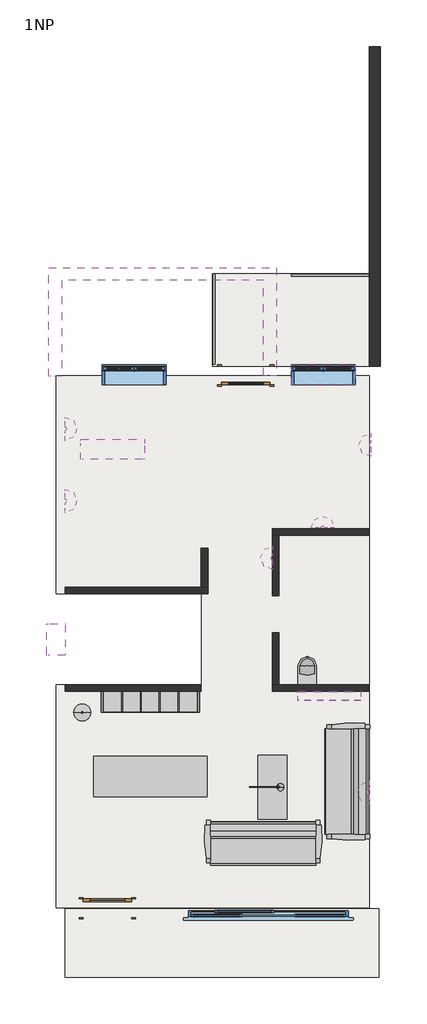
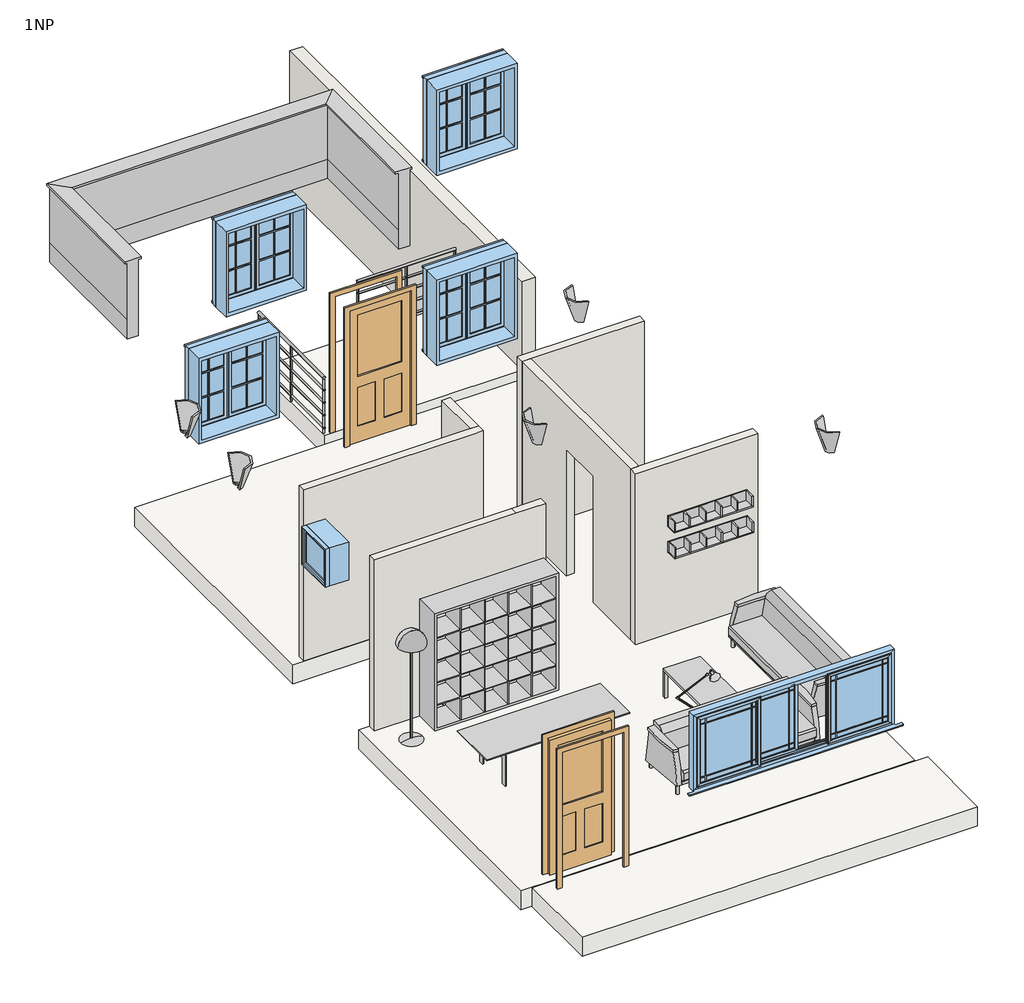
# One storey, incomplete: 8 light fixtures, 7 furniture elements, 7 walls, 6 windows, 3 slabs, 2 doors, 2 railings, 1 flow terminal, 1 proxy.
"""IFC4 building model written with IfcOpenShell, lengths in millimetres."""

from ifc_helpers import new_model, si_unit, frame, origin, origin_with_axes, place, context, project, spatial, polyline, outline, extrude, faceted_brep, transform, mapped, element, save
from components import m_single_decorative_1_0914_x_2134mm_a31491ec, flow_terminal_530_x_350mm_1a9316c8, furniture_920b33d8, furniture_7eedec44, furniture_45a1625c, furniture_0762_x_2134mm_3327233b, furniture_2134mm_67ee6dc0, furniture_2134mm_7fff81ef, lack_120x55cm_a48caeea, light_fixture_bd9db648, light_fixture_16639799, light_fixture_4844b612, light_fixture_da5f3668, light_fixture_c75c11d5, light_fixture_c6ae0c23, railing_900mm_pipe_2_fe6058d7, railing_900mm_pipe_2_0036318b, window_61b1430e, window_8f0d36a4, m_case_doubleall_bar_1200_x_1350mm_d246b42b, m_fixed1_600_x_600mm_7c1dbeb3

model = new_model("IFC4")

# Units and contexts
model_context = context("Model", 3, world=origin())
ifc_project = project(units=[si_unit("LENGTHUNIT", "METRE", prefix="MILLI")], contexts=[model_context])

# Site, building, storey
site = spatial("IfcSite", under=ifc_project)
building = spatial("IfcBuilding", under=site)
storey = spatial("IfcBuildingStorey", under=building, Name="1NP", Elevation=0.0)

# Proxy
placement = place(None, origin())
element("IfcBuildingElementProxy", 1, Name="Parapetto", ObjectType="Parapetto", at=placement, inside=storey, context=model_context, shape_type="Brep", body=[
    faceted_brep([(-4001.8266822, 4391.7328473, 2700.0), (-3841.8266822, 4391.7328473, 2700.0), (-3841.8266822, 4391.7328473, 3000.0), (-3841.8266822, 4391.7328473, 3900.0), (-3811.8266822, 4391.7328473, 3900.0), (-3811.8266822, 4391.7328473, 3930.0), (-4051.8266822, 4391.7328473, 3930.0), (-4051.8266822, 4391.7328473, 3900.0), (-4001.8266822, 4391.7328473, 3900.0), (-4001.8266822, 4391.7328473, 3000.0), (-4001.8266822, 6234.7328473, 2700.0), (-3841.8266822, 6394.7328473, 2700.0), (-3841.8266822, 4573.2328473, 2700.0), (-3841.8266822, 6394.7328473, 3000.0), (-3841.8266822, 6394.7328473, 3900.0), (-3811.8266822, 6424.7328473, 3900.0), (-3811.8266822, 6424.7328473, 3930.0), (-4051.8266822, 6184.7328473, 3930.0), (-4051.8266822, 6184.7328473, 3900.0), (-4001.8266822, 6234.7328473, 3900.0), (-4001.8266822, 6234.7328473, 3000.0), (-7898.3266822, 6234.7328473, 2700.0), (-8058.3266822, 6394.7328473, 2700.0), (-8058.3266822, 6394.7328473, 3000.0), (-8058.3266822, 6394.7328473, 3900.0), (-8088.3266822, 6424.7328473, 3900.0), (-8088.3266822, 6424.7328473, 3930.0), (-7848.3266822, 6184.7328473, 3930.0), (-7848.3266822, 6184.7328473, 3900.0), (-7898.3266822, 6234.7328473, 3900.0), (-7898.3266822, 6234.7328473, 3000.0), (-7898.3266822, 4384.7328473, 2700.0), (-7898.3266822, 4384.7328473, 3000.0), (-7898.3266822, 4384.7328473, 3900.0), (-7848.3266822, 4384.7328473, 3900.0), (-7848.3266822, 4384.7328473, 3930.0), (-8088.3266822, 4384.7328473, 3930.0), (-8088.3266822, 4384.7328473, 3900.0), (-8058.3266822, 4384.7328473, 3900.0), (-8058.3266822, 4384.7328473, 3000.0), (-8058.3266822, 4384.7328473, 2700.0)], [[[0, 1, 2, 3, 4, 5, 6, 7, 8, 9]], [[1, 0, 10, 11, 12]], [[2, 1, 12, 11, 13]], [[3, 2, 13, 14]], [[4, 3, 14, 15]], [[5, 4, 15, 16]], [[6, 5, 16, 17]], [[7, 6, 17, 18]], [[8, 7, 18, 19]], [[9, 8, 19, 20]], [[0, 9, 20, 10]], [[11, 10, 21, 22]], [[13, 11, 22, 23]], [[14, 13, 23, 24]], [[15, 14, 24, 25]], [[16, 15, 25, 26]], [[17, 16, 26, 27]], [[18, 17, 27, 28]], [[19, 18, 28, 29]], [[20, 19, 29, 30]], [[10, 20, 30, 21]], [[31, 32, 33, 34, 35, 36, 37, 38, 39, 40]], [[22, 21, 31, 40]], [[23, 22, 40, 39]], [[24, 23, 39, 38]], [[25, 24, 38, 37]], [[26, 25, 37, 36]], [[27, 26, 36, 35]], [[28, 27, 35, 34]], [[29, 28, 34, 33]], [[30, 29, 33, 32]], [[21, 30, 32, 31]]]),
])

# Doors
m_single_decorative_1_0914_x_2134mm_shape = m_single_decorative_1_0914_x_2134mm_a31491ec(model_context)
element("IfcDoor", 2, ObjectType="M_Single-Decorative 1 : 0914 x 2134mm", at=placement, inside=storey, context=model_context, shape_type="MappedRepresentation", body=[
    mapped(m_single_decorative_1_0914_x_2134mm_shape, transform((-6986.8266822, -5601.7671527, 0.0), x_axis=(-1.0, 0.0, 0.0), y_axis=(0.0, -1.0, 0.0), z_axis=(0.0, 0.0, 1.0))),
])
element("IfcDoor", 3, ObjectType="M_Single-Decorative 1 : 0914 x 2134mm", at=placement, inside=storey, context=model_context, shape_type="MappedRepresentation", body=[
    mapped(m_single_decorative_1_0914_x_2134mm_shape, transform((-4386.8266822, 4398.2328473, 0.0), x_axis=(1.0, 0.0, 0.0), y_axis=(0.0, 1.0, 0.0), z_axis=(0.0, 0.0, 1.0))),
])

# Flow terminal
flow_terminal_530_x_350mm_shape = flow_terminal_530_x_350mm_1a9316c8(model_context)
element("IfcFlowTerminal", 4, ObjectType="WC závěsné : 530 x 350mm", at=placement, inside=storey, context=model_context, shape_type="MappedRepresentation", body=[
    mapped(flow_terminal_530_x_350mm_shape, transform((-3231.7769186, -1401.8406402, 0.0), x_axis=(-1.0, 0.0, 0.0), y_axis=(0.0, -1.0, 0.0), z_axis=(0.0, 0.0, 1.0))),
])

# Furniture
furniture_shape = furniture_920b33d8(model_context)
element("IfcFurniture", 5, ObjectType="Police nástěnná : Benno Mensola", at=placement, inside=storey, context=model_context, shape_type="MappedRepresentation", body=[
    mapped(furniture_shape, transform((-2836.6069087, -1464.3406402, -400.0), x_axis=(-1.0, 0.0, 0.0), y_axis=(0.0, -1.0, 0.0), z_axis=(0.0, 0.0, 1.0))),
])
furniture_2_shape = furniture_7eedec44(model_context)
element("IfcFurniture", 6, ObjectType="Police nástěnná : Benno Mensola", at=placement, inside=storey, context=model_context, shape_type="MappedRepresentation", body=[
    mapped(furniture_2_shape, transform((-2836.6069087, -1464.3406402, 0.0), x_axis=(-1.0, 0.0, 0.0), y_axis=(0.0, -1.0, 0.0), z_axis=(0.0, 0.0, 1.0))),
])
furniture_3_shape = furniture_45a1625c(model_context)
element("IfcFurniture", 7, ObjectType="Knihovna IKEA : Expedit Libreria 185x185x39", at=placement, inside=storey, context=model_context, shape_type="MappedRepresentation", body=[
    mapped(furniture_3_shape, transform((-5936.2729468, -1653.1589206, 0.0), x_axis=(-1.0000000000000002, 0.0, 0.0), y_axis=(0.0, -1.0000000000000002, 0.0), z_axis=(0.0, 0.0, 1.0))),
])
furniture_0762_x_2134mm_shape = furniture_0762_x_2134mm_3327233b(model_context)
element("IfcFurniture", 8, ObjectType="Pohovka_Tavolo-Pranzo : 0762 x 2134mm", at=placement, inside=storey, context=model_context, shape_type="MappedRepresentation", body=[
    mapped(furniture_0762_x_2134mm_shape, transform((-6201.5924488, -3222.051718, 0.0), x_axis=(1.0, 0.0, 0.0), y_axis=(0.0, 1.0, 0.0), z_axis=(0.0, 0.0, 1.0))),
])
furniture_2134mm_shape = furniture_2134mm_67ee6dc0(model_context)
element("IfcFurniture", 9, ObjectType="Pohovka_Poltrona-Pensi : 2134mm", at=placement, inside=storey, context=model_context, shape_type="MappedRepresentation", body=[
    mapped(furniture_2134mm_shape, transform((-4340.4329322, -4649.7308041, 0.0), x_axis=(1.0, 0.0, 0.0), y_axis=(0.0, 1.0, 0.0), z_axis=(0.0, 0.0, 1.0))),
])
furniture_2134mm_2_shape = furniture_2134mm_7fff81ef(model_context)
element("IfcFurniture", 10, ObjectType="Pohovka_Poltrona-Pensi : 2134mm", at=placement, inside=storey, context=model_context, shape_type="MappedRepresentation", body=[
    mapped(furniture_2134mm_2_shape, transform((-2760.4365182, -3505.4468902, 0.0), x_axis=(0.0, 1.0, 0.0), y_axis=(-1.0, 0.0, 0.0), z_axis=(0.0, 0.0, 1.0))),
])
lack_120x55cm_shape = lack_120x55cm_a48caeea(model_context)
element("IfcFurniture", 11, ObjectType="KonferencniStolek : Lack 120x55cm", at=placement, inside=storey, context=model_context, shape_type="MappedRepresentation", body=[
    mapped(lack_120x55cm_shape, transform((-3537.7285634, -2966.216477, 0.0), x_axis=(1.0, 0.0, 0.0), y_axis=(0.0, 1.0, 0.0), z_axis=(0.0, 0.0, 1.0))),
])

# Light fixtures
light_fixture_shape = light_fixture_bd9db648(model_context)
element("IfcLightFixture", 12, ObjectType="M_Lamapada da pavimento - Semisferica : 100 watt Incandescente", at=placement, inside=storey, context=model_context, shape_type="MappedRepresentation", body=[
    mapped(light_fixture_shape, transform((-7461.8266822, -1926.8406402, 0.0), x_axis=(1.0, 0.0, 0.0), y_axis=(0.0, 1.0, 0.0), z_axis=(0.0, 0.0, 1.0))),
])
light_fixture_2_shape = light_fixture_16639799(model_context)
element("IfcLightFixture", 13, ObjectType="M_Applique : 100 watt Incandescente", at=placement, inside=storey, context=model_context, shape_type="MappedRepresentation", body=[
    mapped(light_fixture_2_shape, transform((-2940.6210153, 1460.6593598, 0.0), x_axis=(1.0, 0.0, 0.0), y_axis=(0.0, 1.0, 0.0), z_axis=(0.0, 0.0, 1.0))),
])
element("IfcLightFixture", 14, ObjectType="M_Applique : 100 watt Incandescente", at=placement, inside=storey, context=model_context, shape_type="MappedRepresentation", body=[
    mapped(light_fixture_2_shape, transform((-1961.8266822, 3098.5271804, 0.0), x_axis=(0.0, 1.0, 0.0), y_axis=(-1.0, 0.0, 0.0), z_axis=(0.0, 0.0, 1.0))),
])
light_fixture_3_shape = light_fixture_4844b612(model_context)
element("IfcLightFixture", 15, ObjectType="M_Lampada da tavolo Luxo : 100 watt Incandescente", at=placement, inside=storey, context=model_context, shape_type="MappedRepresentation", body=[
    mapped(light_fixture_3_shape, transform((-3990.4266822, -3326.8406402, 0.0), x_axis=(1.0, 0.0, 0.0), y_axis=(0.0, 1.0, 0.0), z_axis=(0.0, 0.0, 1.0))),
])
light_fixture_4_shape = light_fixture_da5f3668(model_context)
element("IfcLightFixture", 16, ObjectType="M_Applique : 100 watt Incandescente", at=placement, inside=storey, context=model_context, shape_type="MappedRepresentation", body=[
    mapped(light_fixture_4_shape, transform((-1961.8266822, -3426.8406402, 1900.0), x_axis=(0.0, 1.0, 0.0), y_axis=(-1.0, 0.0, 0.0), z_axis=(0.0, 0.0, 1.0))),
])
light_fixture_5_shape = light_fixture_c75c11d5(model_context)
element("IfcLightFixture", 17, ObjectType="M_Applique : 100 watt Incandescente", at=placement, inside=storey, context=model_context, shape_type="MappedRepresentation", body=[
    mapped(light_fixture_5_shape, transform((-3824.3266822, 976.9536929, 0.0), x_axis=(0.0, 1.0, 0.0), y_axis=(-1.0, 0.0, 0.0), z_axis=(0.0, 0.0, 1.0))),
])
light_fixture_6_shape = light_fixture_c6ae0c23(model_context)
element("IfcLightFixture", 18, ObjectType="M_Applique : 100 watt Incandescente", at=placement, inside=storey, context=model_context, shape_type="MappedRepresentation", body=[
    mapped(light_fixture_6_shape, transform((-7958.3266822, 2044.3650267, 0.0), x_axis=(0.0, -1.0, 0.0), y_axis=(1.0, 0.0, 0.0), z_axis=(0.0, 0.0, 1.0))),
])
element("IfcLightFixture", 19, ObjectType="M_Applique : 100 watt Incandescente", at=placement, inside=storey, context=model_context, shape_type="MappedRepresentation", body=[
    mapped(light_fixture_6_shape, transform((-7958.3266822, 3398.5271804, 0.0), x_axis=(0.0, -1.0, 0.0), y_axis=(1.0, 0.0, 0.0), z_axis=(0.0, 0.0, 1.0))),
])

# Railings
railing_900mm_pipe_2_shape = railing_900mm_pipe_2_fe6058d7(model_context)
element("IfcRailing", 20, ObjectType="900mm Pipe 2", at=placement, inside=storey, context=model_context, shape_type="MappedRepresentation", body=[
    mapped(railing_900mm_pipe_2_shape, transform((0.0, 0.0, 0.0), x_axis=(1.0, 0.0, 0.0), y_axis=(0.0, 1.0, 0.0), z_axis=(0.0, 0.0, 1.0))),
])
railing_900mm_pipe_2_2_shape = railing_900mm_pipe_2_0036318b(model_context)
element("IfcRailing", 21, ObjectType="900mm Pipe 2", at=placement, inside=storey, context=model_context, shape_type="MappedRepresentation", body=[
    mapped(railing_900mm_pipe_2_2_shape, transform((0.0, 0.0, 0.0), x_axis=(1.0, 0.0, 0.0), y_axis=(0.0, 1.0, 0.0), z_axis=(0.0, 0.0, 1.0))),
])

# Slabs
element("IfcSlab", 22, ObjectType="Domestic Slab", at=placement, inside=storey, context=model_context, shape_type="Brep", body=[
    faceted_brep([(-7948.3266822, 298.1593598, -300.0), (-7948.3266822, 4391.7328473, -300.0), (-2061.8266822, 4391.7328473, -300.0), (-2061.8266822, 4223.2328473, -300.0), (-2061.8266822, -5426.7671527, -300.0), (-2061.8266822, -5595.2671527, -300.0), (-7948.3266822, -5595.2671527, -300.0), (-7948.3266822, -1401.8406402, -300.0), (-5223.3266822, -1401.8406402, -300.0), (-5223.3266822, 298.1593598, -300.0), (-7948.3266822, 298.1593598, 0.0), (-5223.3266822, 298.1593598, 0.0), (-5223.3266822, -1401.8406402, 0.0), (-7948.3266822, -1401.8406402, 0.0), (-7948.3266822, -5595.2671527, 0.0), (-7443.8266822, -5595.2671527, 0.0), (-6529.8266822, -5595.2671527, 0.0), (-2061.8266822, -5595.2671527, 0.0), (-2061.8266822, -5426.7671527, 0.0), (-2061.8266822, 4223.2328473, 0.0), (-2061.8266822, 4391.7328473, 0.0), (-3929.8266822, 4391.7328473, 0.0), (-4843.8266822, 4391.7328473, 0.0), (-7948.3266822, 4391.7328473, 0.0)], [[[0, 1, 2, 3, 4, 5, 6, 7, 8, 9]], [[10, 11, 12, 13, 14, 15, 16, 17, 18, 19, 20, 21, 22, 23]], [[1, 0, 10, 23]], [[2, 1, 23, 22, 21, 20]], [[5, 4, 3, 2, 20, 19, 18, 17]], [[6, 5, 17, 16, 15, 14]], [[7, 6, 14, 13]], [[8, 7, 13, 12]], [[9, 8, 12, 11]], [[0, 9, 11, 10]]]),
])
element("IfcSlab", 23, ObjectType="Domestic Slab", at=placement, inside=storey, context=model_context, shape_type="Brep", body=[
    faceted_brep([(-1881.8266822, -6901.7671527, -300.0), (-2061.8266822, -6901.7671527, -300.0), (-7783.3266822, -6901.7671527, -300.0), (-7783.3266822, -5610.7671527, -300.0), (-1881.8266822, -5610.7671527, -300.0), (-1881.8266822, -6901.7671527, 0.0), (-1881.8266822, -5610.7671527, 0.0), (-7783.3266822, -5610.7671527, 0.0), (-7783.3266822, -6901.7671527, 0.0), (-2061.8266822, -6901.7671527, 0.0)], [[[0, 1, 2, 3, 4]], [[5, 6, 7, 8, 9]], [[2, 1, 0, 5, 9, 8]], [[3, 2, 8, 7]], [[4, 3, 7, 6]], [[0, 4, 6, 5]]]),
])
element("IfcSlab", 24, ObjectType="Generic 300mm", at=placement, inside=storey, context=model_context, shape_type="SweptSolid", body=[
    extrude(outline(polyline([(-2061.8266822, 6313.2328473), (-2061.8266822, 4573.2328473), (-5011.8266822, 4573.2328473), (-5011.8266822, 6313.2328473), (-2061.8266822, 6313.2328473)])), frame((0.0, 0.0, -300.0), z_axis=(0.0, 0.0, 1.0), x_axis=(1.0, 0.0, 0.0)), (0.0, 0.0, 1.0), 300.0),
])

# Walls
element("IfcWall", 25, ObjectType="Generic - 200mm", at=placement, inside=storey, context=model_context, shape_type="SweptSolid", body=[
    extrude(outline(polyline([(4573.2328473, -800.0), (4573.2328473, 1400.0), (10576.7328473, 1400.0), (10576.7328473, 0.0), (10573.2328473, 0.0), (10573.2328473, -800.0), (4573.2328473, -800.0)])), frame((-2061.8266822, 0.0, 0.0), z_axis=(1.0, 0.0, 0.0), x_axis=(0.0, 1.0, 0.0)), (0.0, 0.0, 1.0), 200.0),
])
element("IfcWall", 26, ObjectType="Interior wall", at=placement, inside=storey, context=model_context, shape_type="SweptSolid", body=[
    extrude(outline(polyline([(0.0, -7783.3266822), (0.0, -5226.8266822), (2700.0, -5226.8266822), (2700.0, -5661.8266822), (2700.0, -7783.3266822), (0.0, -7783.3266822)])), frame((0.0, -1526.8406402, 0.0), z_axis=(0.0, 1.0, 0.0), x_axis=(0.0, 0.0, 1.0)), (0.0, 0.0, 1.0), 125.0),
])
element("IfcWall", 27, ObjectType="Interior wall", at=placement, inside=storey, context=model_context, shape_type="Brep", body=[
    faceted_brep([(-5101.8266822, 423.1593598, 0.0), (-5226.8266822, 423.1593598, 0.0), (-7783.3266822, 423.1593598, 0.0), (-7783.3266822, 423.1593598, 2700.0), (-5226.8266822, 423.1593598, 2700.0), (-5101.8266822, 423.1593598, 2700.0), (-5101.8266822, 298.1593598, 0.0), (-5101.8266822, 298.1593598, 2700.0), (-5226.8266822, 298.1593598, 2700.0), (-7783.3266822, 298.1593598, 2700.0), (-7783.3266822, 298.1593598, 0.0)], [[[0, 1, 2, 3, 4, 5]], [[6, 7, 8, 9, 10]], [[2, 1, 0, 6, 10]], [[0, 5, 7, 6]], [[3, 2, 10, 9]], [[5, 4, 3, 9, 8, 7]]]),
])
element("IfcWall", 28, ObjectType="Interior wall", at=placement, inside=storey, context=model_context, shape_type="SweptSolid", body=[
    extrude(outline(polyline([(-5101.8266822, 1160.6593598), (-5101.8266822, 423.1593598), (-5226.8266822, 423.1593598), (-5226.8266822, 1160.6593598), (-5101.8266822, 1160.6593598)])), origin_with_axes(), (0.0, 0.0, 1.0), 2700.0),
])
element("IfcWall", 29, ObjectType="Interior wall", at=placement, inside=storey, context=model_context, shape_type="Brep", body=[
    faceted_brep([(-2061.8266822, -1401.8406402, 0.0), (-3761.8266822, -1401.8406402, 0.0), (-3886.8266822, -1401.8406402, 0.0), (-3886.8266822, -1401.8406402, 2700.0), (-3761.8266822, -1401.8406402, 2700.0), (-2061.8266822, -1401.8406402, 2700.0), (-2061.8266822, -1526.8406402, 0.0), (-2061.8266822, -1526.8406402, 2700.0), (-3886.8266822, -1526.8406402, 2700.0), (-3886.8266822, -1526.8406402, 0.0)], [[[0, 1, 2, 3, 4, 5]], [[6, 7, 8, 9]], [[2, 1, 0, 6, 9]], [[3, 2, 9, 8]], [[0, 5, 7, 6]], [[5, 4, 3, 8, 7]]]),
])
element("IfcWall", 30, ObjectType="Interior wall", at=placement, inside=storey, context=model_context, shape_type="Brep", body=[
    faceted_brep([(-3886.8266822, 1398.1593598, 0.0), (-3761.8266822, 1398.1593598, 0.0), (-2061.8266822, 1398.1593598, 0.0), (-2061.8266822, 1398.1593598, 2700.0), (-3761.8266822, 1398.1593598, 2700.0), (-3886.8266822, 1398.1593598, 2700.0), (-3886.8266822, 1523.1593598, 0.0), (-3886.8266822, 1523.1593598, 2700.0), (-2061.8266822, 1523.1593598, 2700.0), (-2061.8266822, 1523.1593598, 0.0)], [[[0, 1, 2, 3, 4, 5]], [[6, 7, 8, 9]], [[2, 1, 0, 6, 9]], [[0, 5, 7, 6]], [[3, 2, 9, 8]], [[5, 4, 3, 8, 7]]]),
])
element("IfcWall", 31, ObjectType="Interior wall", at=placement, inside=storey, context=model_context, shape_type="Brep", body=[
    faceted_brep([(-3761.8266822, -1401.8406402, 0.0), (-3761.8266822, -434.3406402, 0.0), (-3761.8266822, -434.3406402, 2000.0), (-3761.8266822, 265.6593598, 2000.0), (-3761.8266822, 265.6593598, 0.0), (-3761.8266822, 1398.1593598, 0.0), (-3761.8266822, 1398.1593598, 2700.0), (-3761.8266822, -1401.8406402, 2700.0), (-3886.8266822, -434.3406402, 2000.0), (-3886.8266822, -434.3406402, 0.0), (-3886.8266822, -1401.8406402, 0.0), (-3886.8266822, -1401.8406402, 2700.0), (-3886.8266822, -601.8406402, 2700.0), (-3886.8266822, 1398.1593598, 2700.0), (-3886.8266822, 1398.1593598, 0.0), (-3886.8266822, 265.6593598, 0.0), (-3886.8266822, 265.6593598, 2000.0)], [[[0, 1, 2, 3, 4, 5, 6, 7]], [[8, 9, 10, 11, 12, 13, 14, 15, 16]], [[10, 9, 1, 0]], [[15, 14, 5, 4]], [[0, 7, 11, 10]], [[6, 5, 14, 13]], [[7, 6, 13, 12, 11]], [[2, 1, 9, 8]], [[3, 2, 8, 16]], [[4, 3, 16, 15]]]),
])

# Windows
window_shape = window_61b1430e(model_context)
window_2_shape = window_8f0d36a4(model_context)
element("IfcWindow", 32, ObjectType="IT_Finestra scorrevole 3 ante con listelli tipo 2 : IT_Finestra scorrevole 3 ante con listelli tipo 2", at=placement, inside=storey, context=model_context, shape_type="MappedRepresentation", body=[
    mapped(window_shape, transform((-3990.6557142, -5601.7671527, 0.0), x_axis=(-1.0, 0.0, 0.0), y_axis=(0.0, -1.0, 0.0), z_axis=(0.0, 0.0, 1.0))),
    mapped(window_2_shape, transform((-3990.6557142, -5601.7671527, 0.0), x_axis=(-1.0, 0.0, 0.0), y_axis=(0.0, -1.0, 0.0), z_axis=(0.0, 0.0, 1.0))),
])
m_case_doubleall_bar_1200_x_1350mm_shape = m_case_doubleall_bar_1200_x_1350mm_d246b42b(model_context)
element("IfcWindow", 33, ObjectType="M_Case DoubleAll Bar : 1200 x 1350mm", at=placement, inside=storey, context=model_context, shape_type="MappedRepresentation", body=[
    mapped(m_case_doubleall_bar_1200_x_1350mm_shape, transform((-2929.3266822, 4443.2601532, -115.0), x_axis=(1.0, 0.0, 0.0), y_axis=(0.0, 1.0, 0.0), z_axis=(0.0, 0.0, 1.0))),
])
element("IfcWindow", 34, ObjectType="M_Case DoubleAll Bar : 1200 x 1350mm", at=placement, inside=storey, context=model_context, shape_type="MappedRepresentation", body=[
    mapped(m_case_doubleall_bar_1200_x_1350mm_shape, transform((-6486.8266822, 4443.2601532, -115.0), x_axis=(1.0, 0.0, 0.0), y_axis=(0.0, 1.0, 0.0), z_axis=(0.0, 0.0, 1.0))),
])
element("IfcWindow", 35, ObjectType="M_Case DoubleAll Bar : 1200 x 1350mm", at=placement, inside=storey, context=model_context, shape_type="MappedRepresentation", body=[
    mapped(m_case_doubleall_bar_1200_x_1350mm_shape, transform((-2929.3266822, 4443.2601532, 2885.0), x_axis=(1.0, 0.0, 0.0), y_axis=(0.0, 1.0, 0.0), z_axis=(0.0, 0.0, 1.0))),
])
element("IfcWindow", 36, ObjectType="M_Case DoubleAll Bar : 1200 x 1350mm", at=placement, inside=storey, context=model_context, shape_type="MappedRepresentation", body=[
    mapped(m_case_doubleall_bar_1200_x_1350mm_shape, transform((-6886.8266822, 3043.2601532, 2885.0), x_axis=(1.0, 0.0, 0.0), y_axis=(0.0, 1.0, 0.0), z_axis=(0.0, 0.0, 1.0))),
])
m_fixed1_600_x_600mm_shape = m_fixed1_600_x_600mm_7c1dbeb3(model_context)
element("IfcWindow", 37, ObjectType="M_Fixed1 : 600 x 600mm", at=placement, inside=storey, context=model_context, shape_type="MappedRepresentation", body=[
    mapped(m_fixed1_600_x_600mm_shape, transform((-7945.3266822, -556.8406402, 1083.8025508), x_axis=(0.0, 1.0, 0.0), y_axis=(-1.0, 0.0, 0.0), z_axis=(0.0, 0.0, 1.0))),
])

save(model, "model.ifc")
